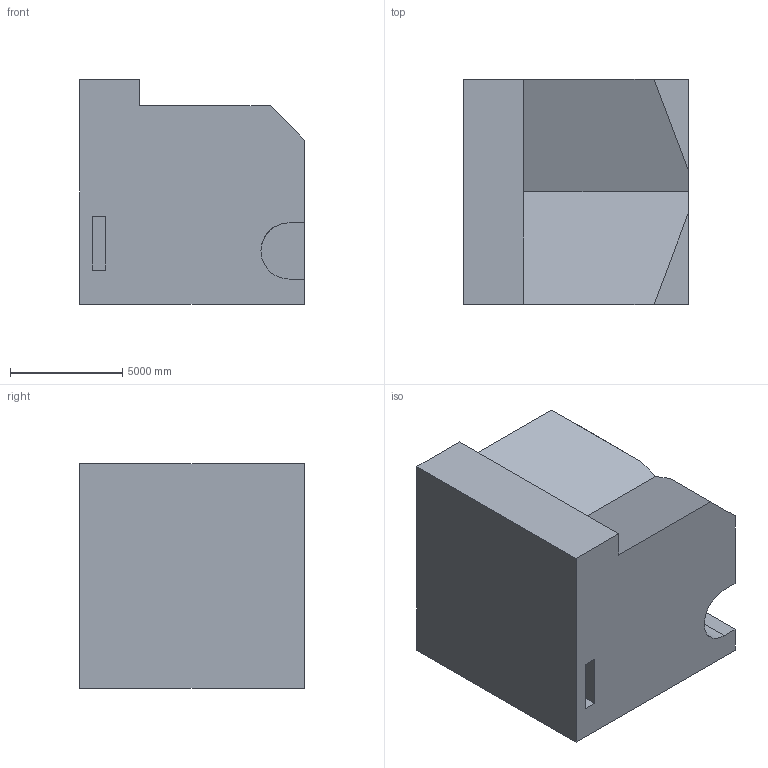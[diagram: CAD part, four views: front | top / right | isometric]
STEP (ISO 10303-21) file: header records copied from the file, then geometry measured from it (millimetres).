
FILE_DESCRIPTION (( 'STEP AP203' ), '1' );
FILE_NAME ('144.STEP', '2022-09-05T15:43:25', ( 'user' ), ( '' ), 'SwSTEP 2.0', 'SolidWorks 2021', '' );
FILE_SCHEMA (( 'CONFIG_CONTROL_DESIGN' ));
Length unit declared in the file: centimetre
Products named in the file (1): 144
Bounding box: 10000 x 10000 x 10000 mm (x, y, z)
Volume: 782589087630.6 mm3; surface area: 681432254.9 mm2
Topology: 1 solids, 1 shells, 25 faces, 66 edges, 44 vertices
Faces by surface type: plane 24, cylinder 1
Entity records: 840 total; most frequent: CARTESIAN_POINT 139, ORIENTED_EDGE 132, DIRECTION 120, EDGE_CURVE 66, VECTOR 62, LINE 62, VERTEX_POINT 44, AXIS2_PLACEMENT_3D 29
